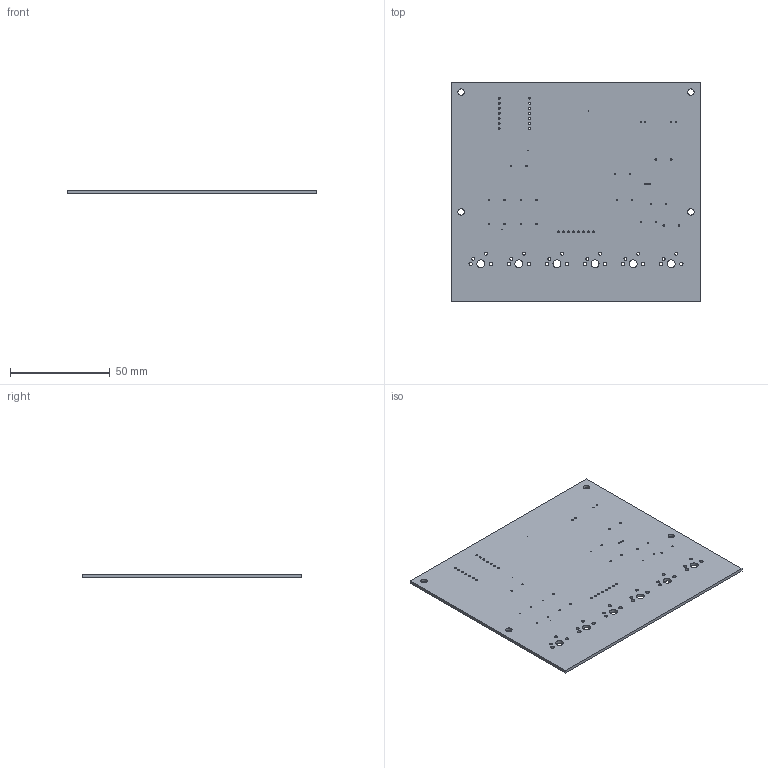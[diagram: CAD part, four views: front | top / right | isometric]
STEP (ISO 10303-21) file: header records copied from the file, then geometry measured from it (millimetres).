
FILE_DESCRIPTION(('KiCad electronic assembly'),'2;1');
FILE_NAME('PCB_Drilled_Body.step','2026-10-28T02:25:59',('Pcbnew'),( 'Kicad'),'Open CASCADE STEP processor 7.6','KiCad to STEP converter' ,'Unknown');
FILE_SCHEMA(('AUTOMOTIVE_DESIGN { 1 0 10303 214 1 1 1 1 }'));
Length unit declared in the file: millimetre
Products named in the file (2): PCB_Drilled_Body 1; jjkspeakerpcb_PCB
Assembly tree (1 placements, depth 2):
  PCB_Drilled_Body 1
    jjkspeakerpcb_PCB
Bounding box: 125 x 110 x 1.51 mm (x, y, z)
Volume: 20477.9 mm3; surface area: 28409.4 mm2
Topology: 1 solids, 1 shells, 94 faces, 276 edges, 184 vertices
Faces by surface type: cylinder 88, plane 6
Full cylindrical faces by diameter (mm): 0.3 x3, 0.75 x3, 0.8 x24, 1 x24, 1.5 x12, 1.7 x12, 3.2 x4, 4 x6
Entity records: 3625 total; most frequent: DIRECTION 644, CARTESIAN_POINT 556, ORIENTED_EDGE 552, EDGE_CURVE 276, AXIS2_PLACEMENT_3D 272, FACE_BOUND 270, EDGE_LOOP 270, VERTEX_POINT 184
